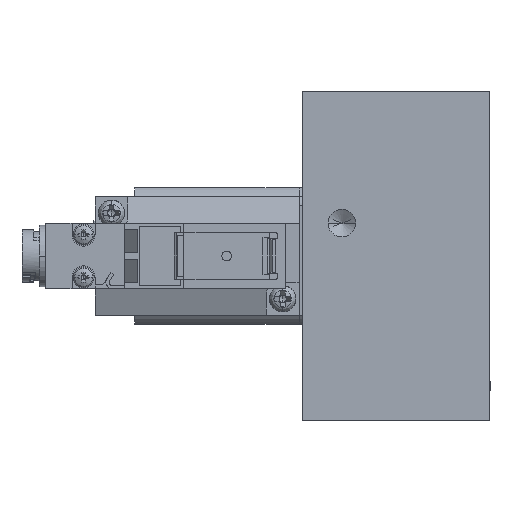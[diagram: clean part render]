
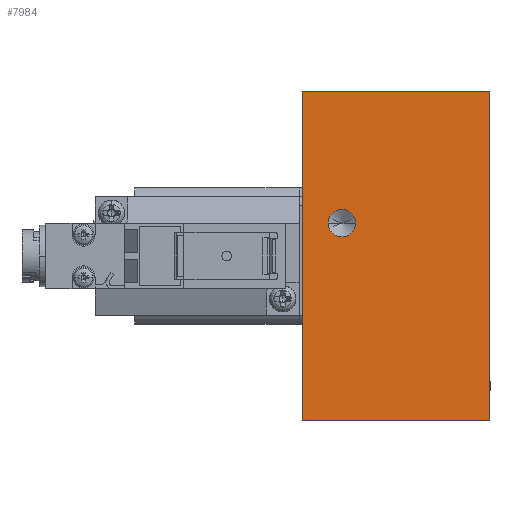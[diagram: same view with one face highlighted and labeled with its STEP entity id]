
A CAD part, left-side view. The second image highlights one B-rep face of the part: STEP entity #7984.
In plain terms, the highlighted planar face has unit normal (-1, 0, 0).
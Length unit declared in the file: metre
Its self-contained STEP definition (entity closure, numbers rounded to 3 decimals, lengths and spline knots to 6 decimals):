
#586 = AXIS2_PLACEMENT_3D ( 'NONE', #17277, #7889, #18866 ) ;
#955 = ORIENTED_EDGE ( 'NONE', *, *, #13314, .F. ) ;
#1413 = CARTESIAN_POINT ( 'NONE',  ( -0.037, -0.01425, 0.025 ) ) ;
#1448 = VERTEX_POINT ( 'NONE', #8539 ) ;
#1869 = ORIENTED_EDGE ( 'NONE', *, *, #16972, .T. ) ;
#2511 = CARTESIAN_POINT ( 'NONE',  ( -0.037, 0.00825, 0.005 ) ) ;
#3029 = VERTEX_POINT ( 'NONE', #7642 ) ;
#3344 = CARTESIAN_POINT ( 'NONE',  ( -0.037, 0.01035, 0.005 ) ) ;
#3634 = LINE ( 'NONE', #13409, #19312 ) ;
#3782 = CARTESIAN_POINT ( 'NONE',  ( -0.037, -0.01425, -0.025 ) ) ;
#3864 = ORIENTED_EDGE ( 'NONE', *, *, #14327, .F. ) ;
#4113 = DIRECTION ( 'NONE',  ( 0., -1., 0. ) ) ;
#5347 = FACE_OUTER_BOUND ( 'NONE', #15260, .T. ) ;
#6798 = FACE_BOUND ( 'NONE', #8598, .T. ) ;
#6983 = VECTOR ( 'NONE', #8522, 1. ) ;
#7015 = EDGE_CURVE ( 'NONE', #3029, #18297, #7569, .T. ) ;
#7569 = LINE ( 'NONE', #16355, #19590 ) ;
#7642 = CARTESIAN_POINT ( 'NONE',  ( -0.037, 0.01425, 0.025 ) ) ;
#7717 = DIRECTION ( 'NONE',  ( 0., 0., -1. ) ) ;
#7889 = DIRECTION ( 'NONE',  ( -1., 0., 0. ) ) ;
#7984 = ADVANCED_FACE ( 'NONE', ( #6798, #5347 ), #10796, .F. ) ;
#8140 = VERTEX_POINT ( 'NONE', #3344 ) ;
#8226 = ORIENTED_EDGE ( 'NONE', *, *, #7015, .T. ) ;
#8300 = CIRCLE ( 'NONE', #9905, 0.0021 ) ;
#8522 = DIRECTION ( 'NONE',  ( 0., 0., 1. ) ) ;
#8539 = CARTESIAN_POINT ( 'NONE',  ( -0.037, -0.01425, 0.025 ) ) ;
#8598 = EDGE_LOOP ( 'NONE', ( #3864, #955 ) ) ;
#8691 = AXIS2_PLACEMENT_3D ( 'NONE', #1413, #17112, #7717 ) ;
#9889 = LINE ( 'NONE', #10771, #18257 ) ;
#9905 = AXIS2_PLACEMENT_3D ( 'NONE', #2511, #13473, #4113 ) ;
#10771 = CARTESIAN_POINT ( 'NONE',  ( -0.037, 0., 0.025 ) ) ;
#10796 = PLANE ( 'NONE',  #8691 ) ;
#11608 = CARTESIAN_POINT ( 'NONE',  ( -0.037, -0.01425, 0. ) ) ;
#12647 = VERTEX_POINT ( 'NONE', #15641 ) ;
#13314 = EDGE_CURVE ( 'NONE', #8140, #12647, #18412, .T. ) ;
#13409 = CARTESIAN_POINT ( 'NONE',  ( -0.037, 0., -0.025 ) ) ;
#13473 = DIRECTION ( 'NONE',  ( -1., 0., 0. ) ) ;
#13942 = DIRECTION ( 'NONE',  ( 0., -1., 0. ) ) ;
#13951 = ORIENTED_EDGE ( 'NONE', *, *, #17334, .F. ) ;
#14327 = EDGE_CURVE ( 'NONE', #12647, #8140, #8300, .T. ) ;
#15260 = EDGE_LOOP ( 'NONE', ( #1869, #13951, #8226, #18159 ) ) ;
#15641 = CARTESIAN_POINT ( 'NONE',  ( -0.037, 0.00615, 0.005 ) ) ;
#16195 = VERTEX_POINT ( 'NONE', #3782 ) ;
#16334 = EDGE_CURVE ( 'NONE', #16195, #18297, #3634, .T. ) ;
#16355 = CARTESIAN_POINT ( 'NONE',  ( -0.037, 0.01425, 0. ) ) ;
#16559 = DIRECTION ( 'NONE',  ( 0., 1., 0. ) ) ;
#16972 = EDGE_CURVE ( 'NONE', #16195, #1448, #19493, .T. ) ;
#17112 = DIRECTION ( 'NONE',  ( 1., 0., 0. ) ) ;
#17277 = CARTESIAN_POINT ( 'NONE',  ( -0.037, 0.00825, 0.005 ) ) ;
#17334 = EDGE_CURVE ( 'NONE', #3029, #1448, #9889, .T. ) ;
#17605 = CARTESIAN_POINT ( 'NONE',  ( -0.037, 0.01425, -0.025 ) ) ;
#18159 = ORIENTED_EDGE ( 'NONE', *, *, #16334, .F. ) ;
#18257 = VECTOR ( 'NONE', #13942, 1. ) ;
#18297 = VERTEX_POINT ( 'NONE', #17605 ) ;
#18412 = CIRCLE ( 'NONE', #586, 0.0021 ) ;
#18866 = DIRECTION ( 'NONE',  ( 0., -1., 0. ) ) ;
#19312 = VECTOR ( 'NONE', #16559, 1. ) ;
#19459 = DIRECTION ( 'NONE',  ( 0., 0., -1. ) ) ;
#19493 = LINE ( 'NONE', #11608, #6983 ) ;
#19590 = VECTOR ( 'NONE', #19459, 1. ) ;
